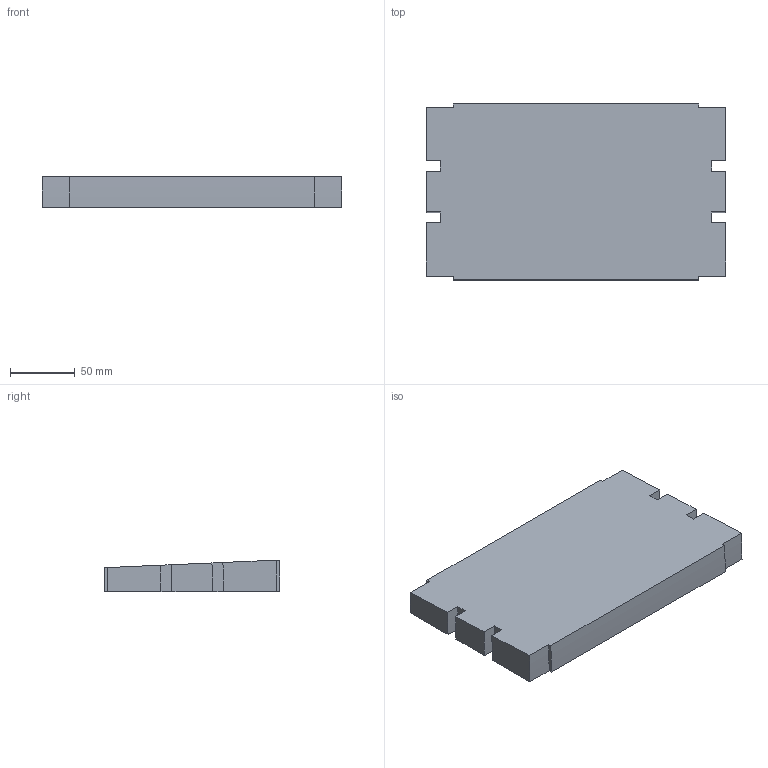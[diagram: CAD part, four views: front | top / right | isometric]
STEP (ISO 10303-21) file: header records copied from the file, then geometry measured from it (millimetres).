
FILE_DESCRIPTION (( 'STEP AP214' ), '1' );
FILE_NAME ('02.150V02.230.N FS-230-MTC-150 Bocht verticaal 2,5°.STEP', '2013-03-29T13:02:26', ( 'Gebruiker' ), ( '' ), 'SwSTEP 2.0', 'SolidWorks 2012', '' );
FILE_SCHEMA (( 'AUTOMOTIVE_DESIGN' ));
Length unit declared in the file: millimetre
Products named in the file (1): 02.150V02.230.N FS-230-MTC-150 Bocht verticaal 2,5°
Bounding box: 232.5 x 136.41 x 24.78 mm (x, y, z)
Volume: 677100.5 mm3; surface area: 80070.7 mm2
Topology: 1 solids, 1 shells, 30 faces, 84 edges, 56 vertices
Faces by surface type: plane 16, cylinder 14
Entity records: 1010 total; most frequent: DIRECTION 174, CARTESIAN_POINT 171, ORIENTED_EDGE 168, EDGE_CURVE 84, AXIS2_PLACEMENT_3D 59, VERTEX_POINT 56, VECTOR 56, LINE 56
